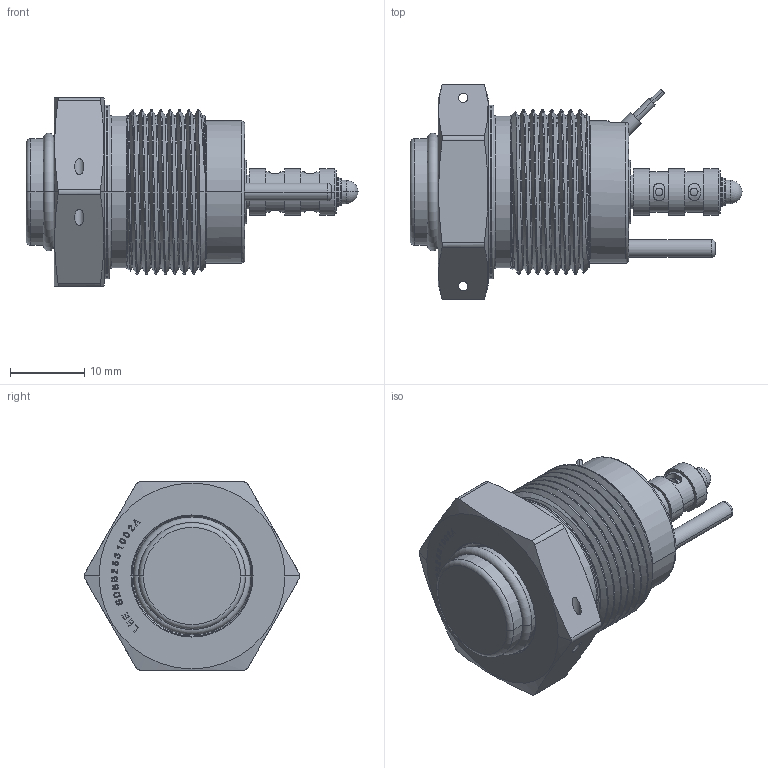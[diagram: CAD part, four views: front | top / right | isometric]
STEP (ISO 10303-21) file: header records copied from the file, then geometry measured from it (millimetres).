
FILE_DESCRIPTION(('Creo Elements/Direct Modeling STEP Export'),'2;1');
FILE_NAME('SDBB2531002A.stp','2021-03-31T15:17:34',(''),(''),'Creo Elements/Direct Modeling STEP processor for AP214 (Solid Model)','Creo Elements/Direct Modeling 18.1 03-Mar-2012 (C) Parametric Technology GmbH','');
FILE_SCHEMA(('AUTOMOTIVE_DESIGN { 1 0 10303 214 1 1 1 1 }'));
Length unit declared in the file: millimetre
Products named in the file (2): SDBB2531002A
Assembly tree (1 placements, depth 2):
  SDBB2531002A
    SDBB2531002A
Bounding box: 44.75 x 29.09 x 25.4 mm (x, y, z)
Volume: 11130.6 mm3; surface area: 4253.3 mm2
Topology: 1 solids, 1 shells, 840 faces, 2319 edges, 1525 vertices
Faces by surface type: plane 655, cylinder 105, cone 30, torus 25, bspline 19, extrusion 3, sphere 2, revolution 1
Entity records: 36697 total; most frequent: CARTESIAN_POINT 15071, ORIENTED_EDGE 4630, DIRECTION 3653, EDGE_CURVE 2315, VECTOR 1888, LINE 1885, VERTEX_POINT 1525, EDGE_LOOP 896
